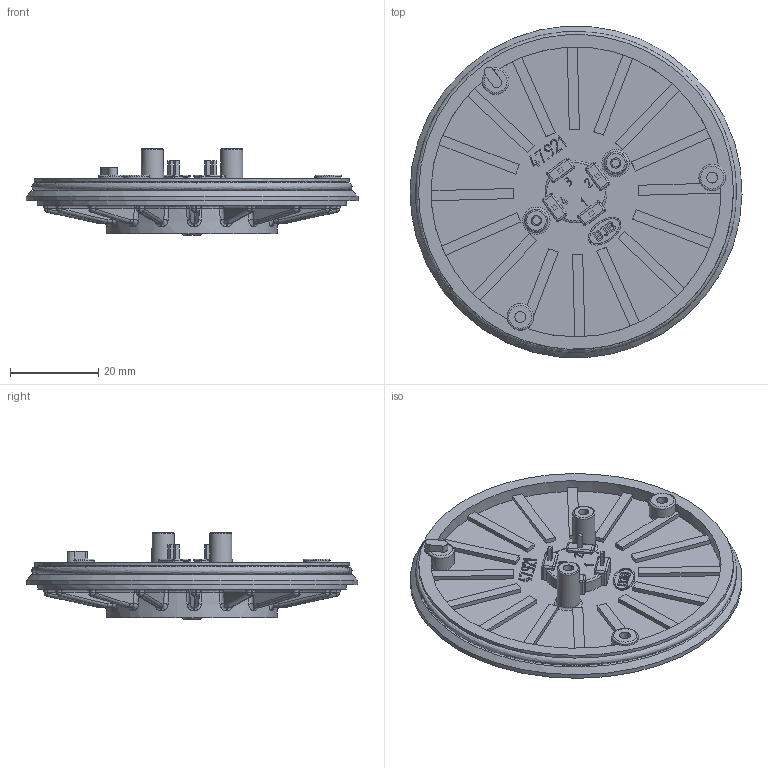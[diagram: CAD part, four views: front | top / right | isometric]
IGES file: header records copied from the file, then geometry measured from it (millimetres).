
Start section: C
Global section: file name: 022-K00-0D.igs; native system: By Siemens PLM Incorporated; preprocessor: XPlus GENERIC/IGES 23.0.61; author: Author; organization: Title; date: 20250813.130637; units: millimetre
Bounding box: 75.2 x 75.06 x 19.7 mm (x, y, z)
Volume: 20008.1 mm3; surface area: 17040.7 mm2
Topology: 6 solids, 6 shells, 1017 faces, 2511 edges, 1459 vertices
Faces by surface type: bspline 1017
